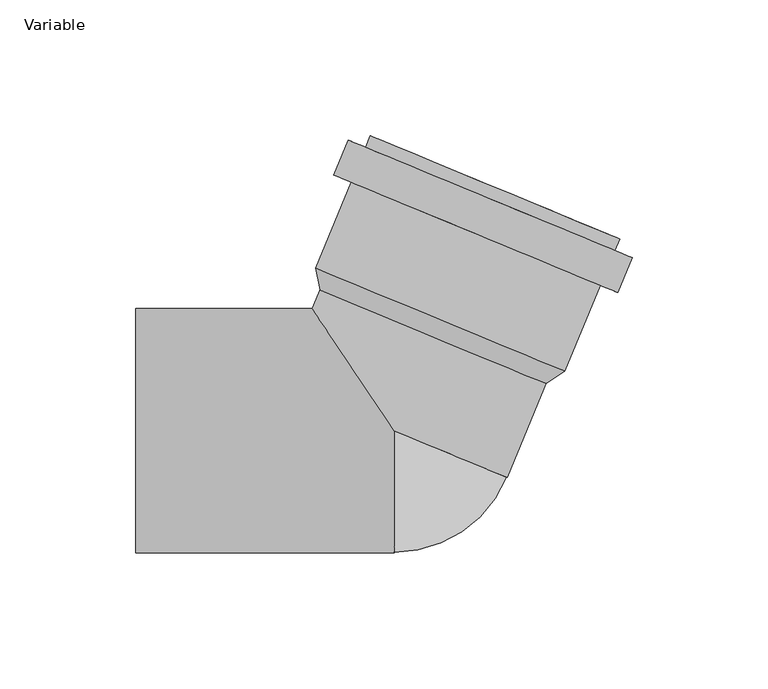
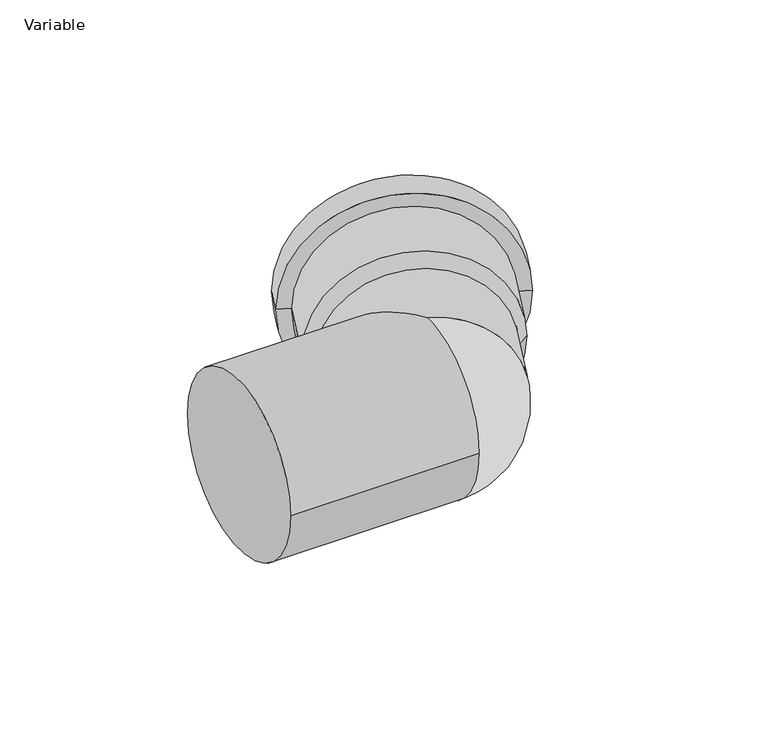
"""IFC4 building model written with IfcOpenShell, lengths in millimetres: pipe fitting geometry, AliaxisFR_Friaphon_ElbowMF_FR : Variable."""

import ifcopenshell
import ifcopenshell.guid

model = None  # the IFC model being written
_history = None  # IfcOwnerHistory: only IFC2X3 demands one
_inside = {}  # id of a spatial element -> (the spatial element, [elements in it])
_under = {}  # id of a project, library or spatial element -> (it, [spatial elements below it])
_declared = {}  # id of a project -> (the project, [libraries it declares])
_typed = {}  # id of a type object -> (the type object, [elements of that type])
_made_of = {}  # id of a material, layer set ... -> (it, [elements and type objects made of it])


def new_model(schema):
    """Start an empty IFC model of exactly this schema.

    Asked for "IFC4X3", IfcOpenShell would pick the latest addendum, in which some entities
    have other attributes; the version numbers below select the first issue.
    IFC2X3 requires an IfcOwnerHistory on every rooted entity: one is made here for all.
    """
    global model, _history
    if schema == "IFC4X3":
        model = ifcopenshell.file(schema_version=(4, 3, 0, 0))
    else:
        model = ifcopenshell.file(schema=schema)
    _inside.clear()
    _under.clear()
    _declared.clear()
    _typed.clear()
    _made_of.clear()
    _history = None
    if model.schema == "IFC2X3":
        org = make("IfcOrganization", Name="unknown")
        user = make(
            "IfcPersonAndOrganization",
            ThePerson=make("IfcPerson", FamilyName="unknown"),
            TheOrganization=org,
        )
        app = make(
            "IfcApplication",
            ApplicationDeveloper=org,
            Version="unknown",
            ApplicationFullName="unknown",
            ApplicationIdentifier="unknown",
        )
        _history = make(
            "IfcOwnerHistory",
            OwningUser=user,
            OwningApplication=app,
            ChangeAction="ADDED",
            CreationDate=0,
        )
    return model


def make(cls, **values):
    """One entity of the class cls with the attributes given. An attribute that is None is left unset."""
    return model.create_entity(
        cls, **{name: value for name, value in values.items() if value is not None}
    )


def rooted(cls, **values):
    """An entity with a GlobalId (a new one), such as an element, a storey or a relation."""
    return make(cls, GlobalId=ifcopenshell.guid.new(), OwnerHistory=_history, **values)


def si_unit(unit_type, name, prefix=None):
    """IfcSIUnit, for example si_unit("LENGTHUNIT", "METRE", prefix="MILLI")."""
    return make("IfcSIUnit", UnitType=unit_type, Prefix=prefix, Name=name)


def assignment(units):
    """IfcUnitAssignment: the units of a project."""
    return None if units is None else make("IfcUnitAssignment", Units=units)


def point(xyz):
    """IfcCartesianPoint."""
    return None if xyz is None else make("IfcCartesianPoint", Coordinates=xyz)


def direction(xyz):
    """IfcDirection."""
    return None if xyz is None else make("IfcDirection", DirectionRatios=xyz)


def frame(location, z_axis=None, x_axis=None):
    """IfcAxis2Placement3D, a coordinate frame: its origin and axes. An axis left out is left unset."""
    return make(
        "IfcAxis2Placement3D",
        Location=point(location),
        Axis=direction(z_axis),
        RefDirection=direction(x_axis),
    )


def origin():
    """The frame at (0, 0, 0) with its axes left unset."""
    return frame((0.0, 0.0, 0.0))


def place(relative_to, where):
    """IfcLocalPlacement: puts the frame where relative to a parent placement (None: the world)."""
    return make(
        "IfcLocalPlacement", PlacementRelTo=relative_to, RelativePlacement=where
    )


def context(
    kind, dimensions, precision=None, world=None, true_north=None, identifier=None
):
    """IfcGeometricRepresentationContext, for example the 3D "Model" context."""
    return make(
        "IfcGeometricRepresentationContext",
        ContextIdentifier=identifier,
        ContextType=kind,
        CoordinateSpaceDimension=dimensions,
        Precision=precision,
        WorldCoordinateSystem=world,
        TrueNorth=true_north,
    )


def project(units=None, contexts=None):
    """IfcProject with its units and contexts."""
    return rooted(
        "IfcProject",
        Name="project",
        RepresentationContexts=contexts,
        UnitsInContext=assignment(units),
    )


def spatial(cls, under=None, at=None, **own):
    """A site, building, storey or space (cls), placed at a placement, below another one or the project."""
    s = rooted(cls, ObjectPlacement=at, **own)
    if under is not None:
        _under.setdefault(under.id(), (under, []))[1].append(s)
    return s


def polyline(points):
    """IfcPolyline through the points."""
    return make("IfcPolyline", Points=[point(p) for p in points])


def circle_curve(where, radius):
    """IfcCircle in the frame where."""
    return make("IfcCircle", Position=where, Radius=radius)


def ellipse_curve(where, semi_axis1, semi_axis2):
    """IfcEllipse in the frame where."""
    return make(
        "IfcEllipse", Position=where, SemiAxis1=semi_axis1, SemiAxis2=semi_axis2
    )


def trimmed(basis, trim1, trim2, sense, master):
    """IfcTrimmedCurve: the piece of a basis curve between two trims."""
    return make(
        "IfcTrimmedCurve",
        BasisCurve=basis,
        Trim1=trim1,
        Trim2=trim2,
        SenseAgreement=sense,
        MasterRepresentation=master,
    )


def shape(context_of_items, identifier, shape_type, items):
    """IfcShapeRepresentation: the items that make up one representation, for example the "Body"."""
    return make(
        "IfcShapeRepresentation",
        ContextOfItems=context_of_items,
        RepresentationIdentifier=identifier,
        RepresentationType=shape_type,
        Items=items,
    )


def source(mapping_origin, context_of_items, identifier, shape_type, items):
    """IfcRepresentationMap: a shape defined once, which mapped items show again and again."""
    return make(
        "IfcRepresentationMap",
        MappingOrigin=mapping_origin,
        MappedRepresentation=shape(context_of_items, identifier, shape_type, items),
    )


def transform(
    local_origin,
    x_axis=None,
    y_axis=None,
    z_axis=None,
    scale=None,
    scale2=None,
    scale3=None,
    uniform=True,
):
    """IfcCartesianTransformationOperator3D, or its non-uniform kind. x_axis, y_axis, z_axis: its Axis1, 2, 3."""
    if uniform:
        return make(
            "IfcCartesianTransformationOperator3D",
            Axis1=direction(x_axis),
            Axis2=direction(y_axis),
            LocalOrigin=point(local_origin),
            Scale=scale,
            Axis3=direction(z_axis),
        )
    return make(
        "IfcCartesianTransformationOperator3DnonUniform",
        Axis1=direction(x_axis),
        Axis2=direction(y_axis),
        LocalOrigin=point(local_origin),
        Scale=scale,
        Axis3=direction(z_axis),
        Scale2=scale2,
        Scale3=scale3,
    )


def mapped(mapping_source, mapping_target):
    """IfcMappedItem: shows the shape of a source again, moved by a transform."""
    return make(
        "IfcMappedItem", MappingSource=mapping_source, MappingTarget=mapping_target
    )


def made_of(thing, what):
    """Note that an element or type object is made of a material, layer set ...; save() writes the relation."""
    if what is not None:
        _made_of.setdefault(what.id(), (what, []))[1].append(thing)
    return thing


def element(
    cls,
    number,
    at=None,
    inside=None,
    cuts=None,
    type_object=None,
    material=None,
    context=None,
    identifier="Body",
    shape_type=None,
    held_by="IfcProductDefinitionShape",
    body=None,
    shapes=None,
    **own,
):
    """One element of the class cls, such as IfcWall. Its Tag is "e" and its number.

    at: its placement. inside: the storey or other place that contains it. cuts: it is an
    opening in that element (IfcRelVoidsElement). A single representation is given by context,
    identifier, shape_type and body (its items); several are given by shapes. held_by: the class
    of the entity that holds the representations. save() writes the other relations.
    """
    e = rooted(cls, Tag="e%d" % number, ObjectPlacement=at, **own)
    if body is not None:
        shapes = [shape(context, identifier, shape_type, body)]
    if shapes is not None:
        e.Representation = make(held_by, Representations=shapes)
    if inside is not None:
        _inside.setdefault(inside.id(), (inside, []))[1].append(e)
    if cuts is not None:
        rooted(
            "IfcRelVoidsElement", RelatingBuildingElement=cuts, RelatedOpeningElement=e
        )
    if type_object is not None:
        _typed.setdefault(type_object.id(), (type_object, []))[1].append(e)
    return made_of(e, material)


def aggregate(whole, parts):
    """IfcRelAggregates: a whole, such as a stair, and the parts it consists of."""
    return rooted("IfcRelAggregates", RelatingObject=whole, RelatedObjects=parts)


def save(model, path):
    """Write the relations noted so far, then the file.

    IfcRelAggregates (storeys below a building ...), IfcRelContainedInSpatialStructure (elements
    in a storey), IfcRelDefinesByType, IfcRelAssociatesMaterial and IfcRelDeclares: one each for
    every whole, place, type object, material and project.
    """
    for whole, parts in _under.values():
        aggregate(whole, parts)
    for where, things in _inside.values():
        rooted(
            "IfcRelContainedInSpatialStructure",
            RelatedElements=things,
            RelatingStructure=where,
        )
    for kind, things in _typed.values():
        rooted("IfcRelDefinesByType", RelatedObjects=things, RelatingType=kind)
    for what, things in _made_of.values():
        rooted("IfcRelAssociatesMaterial", RelatedObjects=things, RelatingMaterial=what)
    for by, libraries in _declared.values():
        rooted("IfcRelDeclares", RelatingContext=by, RelatedDefinitions=libraries)
    model.write(path)


def plane_surface(at):
    """IfcPlane: the flat surface through the origin of the frame at, square to its z axis."""
    return make("IfcPlane", Position=at)


def cylinder_surface(at, radius):
    """IfcCylindricalSurface: all points at the distance radius from the z axis of the frame at."""
    return make("IfcCylindricalSurface", Position=at, Radius=radius)


def revolved_surface(curve, axis_point, axis_direction):
    """IfcSurfaceOfRevolution: the curve turned about the line through axis_point along axis_direction."""
    return make(
        "IfcSurfaceOfRevolution",
        SweptCurve=make("IfcArbitraryOpenProfileDef", ProfileType="CURVE", Curve=curve),
        AxisPosition=make("IfcAxis1Placement", Location=point(axis_point), Axis=direction(axis_direction)),
    )


def advanced_brep(points, edges, surfaces, faces):
    """IfcAdvancedBrep: a solid bounded by faces that lie on surfaces and meet in shared edges.

    An edge is (start, end): straight between two places in points (the first is 0);
    or (start, end, curve); or (start, end, curve, False) where it runs against its curve.
    A face is (place in surfaces, loops), or (place, loops, False) where it looks against
    its surface's normal. A loop lists edges by number (the first is 1), with a minus sign
    where the edge is run from its end to its start. The first loop is the outer one.
    """
    corners = [point(p) for p in points]
    vertices = [make("IfcVertexPoint", VertexGeometry=c) for c in corners]
    made = []
    for start, end, *more in edges:
        made.append(
            make(
                "IfcEdgeCurve",
                EdgeStart=vertices[start],
                EdgeEnd=vertices[end],
                EdgeGeometry=more[0] if more else make("IfcPolyline", Points=[corners[start], corners[end]]),
                SameSense=more[1] if len(more) > 1 else True,
            )
        )
    hull = []
    for where, loops, *sense in faces:
        bounds = []
        for j, loop in enumerate(loops):
            ring = [make("IfcOrientedEdge", EdgeElement=made[abs(k) - 1], Orientation=k > 0) for k in loop]
            bounds.append(
                make(
                    "IfcFaceOuterBound" if j == 0 else "IfcFaceBound",
                    Bound=make("IfcEdgeLoop", EdgeList=ring),
                    Orientation=True,
                )
            )
        hull.append(make("IfcAdvancedFace", Bounds=bounds, FaceSurface=surfaces[where], SameSense=sense[0] if sense else True))
    return make("IfcAdvancedBrep", Outer=make("IfcClosedShell", CfsFaces=hull))


def variable_518ba2a0(model_context):
    return source(origin(), model_context, "Body", "AdvancedBrep", [
        advanced_brep(
        [(82.9447178, 70.6352164, 0.0), (-8.7041319, 108.5974129, 0.0), (-4.454286, 106.8370691, 0.0), (78.6948719, 72.3955602, 0.0), (82.239843, 50.9029294, 0.0), (-22.1585441, 94.1461572, 0.0), (-16.8392444, 106.9880827, 0.0), (87.5591427, 63.7448549, 0.0), (75.8650743, 53.5434451, 0.0), (-15.7837754, 91.5056415, 0.0), (62.7773009, 21.946765, 0.0), (-28.8715488, 59.9089615, 0.0), (-27.2622186, 51.773849, 0.0), (55.8869393, 17.3323401, 0.0), (81.184374, 66.3853706, 0.0), (-10.4644757, 104.347567, 0.0)],
        [
            (0, 1, circle_curve(frame((37.1202929, 89.6163147, 0.0), z_axis=(0.38268343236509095, 0.9238795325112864, 0.0), x_axis=(-0.9238795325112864, 0.38268343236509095, 0.0)), 49.6)),
            (1, 2),
            (2, 3, circle_curve(frame((37.1202929, 89.6163147, 0.0), z_axis=(-0.38268343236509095, -0.9238795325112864, 0.0), x_axis=(-0.9238795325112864, 0.38268343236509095, 0.0)), 45.0)),
            (3, 0),
            (1, 0, circle_curve(frame((37.1202929, 89.6163147, 0.0), z_axis=(0.38268343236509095, 0.9238795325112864, 0.0), x_axis=(-0.9238795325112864, 0.38268343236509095, 0.0)), 49.6)),
            (3, 2, circle_curve(frame((37.1202929, 89.6163147, 0.0), z_axis=(-0.38268343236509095, -0.9238795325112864, 0.0), x_axis=(-0.9238795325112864, 0.38268343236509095, 0.0)), 45.0)),
            (4, 5, circle_curve(frame((30.0406494, 72.5245433, 0.0), z_axis=(0.38268343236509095, 0.9238795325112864, 0.0), x_axis=(-0.9238795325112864, 0.38268343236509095, 0.0)), 56.5)),
            (5, 6),
            (6, 7, circle_curve(frame((35.3599492, 85.3664688, 0.0), z_axis=(-0.38268343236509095, -0.9238795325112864, 0.0), x_axis=(-0.9238795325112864, 0.38268343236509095, 0.0)), 56.5)),
            (7, 4),
            (5, 4, circle_curve(frame((30.0406494, 72.5245433, 0.0), z_axis=(0.38268343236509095, 0.9238795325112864, 0.0), x_axis=(-0.9238795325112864, 0.38268343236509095, 0.0)), 56.5)),
            (7, 6, circle_curve(frame((35.3599492, 85.3664688, 0.0), z_axis=(-0.38268343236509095, -0.9238795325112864, 0.0), x_axis=(-0.9238795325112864, 0.38268343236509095, 0.0)), 56.5)),
            (8, 9, circle_curve(frame((30.0406494, 72.5245433, 0.0), z_axis=(0.38268343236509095, 0.9238795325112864, 0.0), x_axis=(-0.9238795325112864, 0.38268343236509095, 0.0)), 49.6)),
            (9, 5),
            (4, 8),
            (9, 8, circle_curve(frame((30.0406494, 72.5245433, 0.0), z_axis=(0.38268343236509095, 0.9238795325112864, 0.0), x_axis=(-0.9238795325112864, 0.38268343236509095, 0.0)), 49.6)),
            (10, 11, circle_curve(frame((16.9528761, 40.9278633, 0.0), z_axis=(0.38268343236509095, 0.9238795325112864, 0.0), x_axis=(-0.9238795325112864, 0.38268343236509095, 0.0)), 49.6)),
            (11, 9),
            (8, 10),
            (11, 10, circle_curve(frame((16.9528761, 40.9278633, 0.0), z_axis=(0.38268343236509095, 0.9238795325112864, 0.0), x_axis=(-0.9238795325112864, 0.38268343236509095, 0.0)), 49.6)),
            (2, 12),
            (12, 13, circle_curve(frame((14.3123604, 34.5530945, 0.0), z_axis=(-0.38268343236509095, -0.9238795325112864, 0.0), x_axis=(-0.9238795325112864, 0.38268343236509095, 0.0)), 45.0)),
            (13, 3),
            (13, 12, circle_curve(frame((14.3123604, 34.5530945, 0.0), z_axis=(-0.38268343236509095, -0.9238795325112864, 0.0), x_axis=(-0.9238795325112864, 0.38268343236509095, 0.0)), 45.0)),
            (12, 11),
            (10, 13),
            (14, 15, circle_curve(frame((35.3599492, 85.3664688, 0.0), z_axis=(0.38268343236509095, 0.9238795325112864, 0.0), x_axis=(-0.9238795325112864, 0.38268343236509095, 0.0)), 49.6)),
            (15, 1),
            (0, 14),
            (15, 14, circle_curve(frame((35.3599492, 85.3664688, 0.0), z_axis=(0.38268343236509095, 0.9238795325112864, 0.0), x_axis=(-0.9238795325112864, 0.38268343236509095, 0.0)), 49.6)),
            (6, 15),
            (14, 7),
        ],
        [
            plane_surface(frame((37.1202929, 89.6163147, 0.0), z_axis=(0.38268343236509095, 0.9238795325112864, 0.0), x_axis=(-0.9238795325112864, 0.38268343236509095, 0.0))),
            cylinder_surface(frame((14.3123604, 34.5530945, 0.0), z_axis=(-0.38268343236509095, -0.9238795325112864, 0.0), x_axis=(-0.9238795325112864, 0.38268343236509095, 0.0)), 56.5),
            plane_surface(frame((30.0406494, 72.5245433, 0.0), z_axis=(-0.38268343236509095, -0.9238795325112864, 0.0), x_axis=(-0.9238795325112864, 0.38268343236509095, 0.0))),
            cylinder_surface(frame((14.3123604, 34.5530945, 0.0), z_axis=(-0.38268343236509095, -0.9238795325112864, 0.0), x_axis=(-0.9238795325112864, 0.38268343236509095, 0.0)), 49.6),
            revolved_surface(polyline([(-27.262218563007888, 51.77384895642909, 0.0), (-4.454285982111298, 106.83706912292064, 0.0)]), (14.3123604, 34.5530945, 0.0), (-0.38268343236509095, -0.9238795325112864, 0.0)),
            revolved_surface(polyline([(-28.8715488, 59.9089615, 0.0), (-27.2622186, 51.773849, 0.0)]), (14.3123604, 34.5530945, 0.0), (-0.38268343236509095, -0.9238795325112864, 0.0)),
            plane_surface(frame((35.3599492, 85.3664688, 0.0), z_axis=(0.38268343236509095, 0.9238795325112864, 0.0), x_axis=(-0.9238795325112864, 0.38268343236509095, 0.0))),
        ],
        [
            (0, [[1, 2, 3, 4]]),
            (0, [[5, -4, 6, -2]]),
            (1, [[7, 8, 9, 10]]),
            (1, [[11, -10, 12, -8]]),
            (2, [[13, 14, -7, 15]]),
            (2, [[16, -15, -11, -14]]),
            (3, [[17, 18, -13, 19]]),
            (3, [[20, -19, -16, -18]]),
            (4, [[-3, 21, 22, 23]]),
            (4, [[-6, -23, 24, -21]]),
            (5, [[-22, 25, -17, 26]]),
            (5, [[-24, -26, -20, -25]]),
            (3, [[27, 28, -1, 29]]),
            (3, [[30, -29, -5, -28]]),
            (6, [[-9, 31, -27, 32]]),
            (6, [[-12, -32, -30, -31]]),
        ],
    ),
        advanced_brep(
        [(-25.5018748, 56.0236948, 0.0), (16.0727042, 38.8029404, 45.0), (57.6472831, 21.5821859, 0.0), (16.0727042, 38.8029404, -45.0), (41.574579, -17.2207545, 0.0), (-30.0680387, 45.0, 0.0), (0.0, 0.0, 45.0), (0.0, 0.0, -45.0), (-95.0, -45.0, 0.0), (-95.0, 45.0, 0.0), (0.0, -45.0, 0.0)],
        [
            (0, 1, circle_curve(frame((16.0727042, 38.8029404, 0.0), z_axis=(0.382683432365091, 0.9238795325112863, 0.0), x_axis=(-0.9238795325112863, 0.382683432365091, 0.0)), 45.0)),
            (1, 2, circle_curve(frame((16.0727042, 38.8029404, 0.0), z_axis=(0.382683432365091, 0.9238795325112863, 0.0), x_axis=(-0.9238795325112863, 0.382683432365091, 0.0)), 45.0)),
            (2, 3, circle_curve(frame((16.0727042, 38.8029404, 0.0), z_axis=(0.382683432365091, 0.9238795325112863, 0.0), x_axis=(-0.9238795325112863, 0.382683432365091, 0.0)), 45.0)),
            (3, 0, circle_curve(frame((16.0727042, 38.8029404, 0.0), z_axis=(0.382683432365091, 0.9238795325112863, 0.0), x_axis=(-0.9238795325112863, 0.382683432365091, 0.0)), 45.0)),
            (4, 2),
            (0, 5),
            (5, 6, ellipse_curve(frame((0.0, 0.0, 0.0), z_axis=(0.8314696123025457, 0.5555702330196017, 0.0), x_axis=(0.5555702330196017, -0.8314696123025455, 0.0)), 54.1210398, 45.0)),
            (6, 4, circle_curve(frame((0.0, 0.0, 0.0), z_axis=(0.382683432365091, 0.9238795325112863, 0.0), x_axis=(-0.9238795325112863, 0.382683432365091, 0.0)), 45.0)),
            (4, 7, circle_curve(frame((0.0, 0.0, 0.0), z_axis=(0.382683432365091, 0.9238795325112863, 0.0), x_axis=(-0.9238795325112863, 0.382683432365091, 0.0)), 45.0)),
            (7, 5, ellipse_curve(frame((0.0, 0.0, 0.0), z_axis=(0.8314696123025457, 0.5555702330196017, 0.0), x_axis=(0.5555702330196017, -0.8314696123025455, 0.0)), 54.1210398, 45.0)),
            (8, 9, circle_curve(frame((-95.0, 0.0, 0.0), z_axis=(-1.0, 0.0, 0.0), x_axis=(0.0, 1.0, 0.0)), 45.0)),
            (9, 8, circle_curve(frame((-95.0, 0.0, 0.0), z_axis=(-1.0, 0.0, 0.0), x_axis=(0.0, 1.0, 0.0)), 45.0)),
            (8, 10),
            (10, 6, circle_curve(frame((0.0, 0.0, 0.0), z_axis=(-1.0, 0.0, 0.0), x_axis=(0.0, 1.0, 0.0)), 45.0)),
            (5, 9),
            (7, 10, circle_curve(frame((0.0, 0.0, 0.0), z_axis=(-1.0, 0.0, 0.0), x_axis=(0.0, 1.0, 0.0)), 45.0)),
        ],
        [
            plane_surface(frame((16.0727042, 38.8029404, 0.0), z_axis=(0.38268343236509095, 0.9238795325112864, 0.0), x_axis=(0.0, 0.0, 1.0))),
            cylinder_surface(frame((0.0, 0.0, 0.0), z_axis=(-0.382683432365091, -0.9238795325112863, 0.0), x_axis=(-0.9238795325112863, 0.382683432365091, 0.0)), 45.0),
            plane_surface(frame((-95.0, 0.0, 0.0), z_axis=(-1.0, 0.0, 0.0), x_axis=(0.0, 0.0, 1.0))),
            cylinder_surface(frame((-95.0, 0.0, 0.0), z_axis=(-1.0, 0.0, 0.0), x_axis=(0.0, 1.0, 0.0)), 45.0),
            revolved_surface(trimmed(ellipse_curve(frame((0.0, 0.0, 0.0), z_axis=(0.3826834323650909, 0.9238795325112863, 0.0), x_axis=(-0.9238795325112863, 0.3826834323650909, 0.0)), 45.0, 45.0), [point((0.0, 0.0, 45.0))], [point((0.0, 0.0, -45.0))], True, "CARTESIAN"), (0.0, 0.0, 45.0), (0.0, 0.0, -1.0)),
        ],
        [
            (0, [[1, 2, 3, 4]]),
            (1, [[5, -2, -1, 6, 7, 8]]),
            (1, [[-5, 9, 10, -6, -4, -3]]),
            (2, [[11, 12]]),
            (3, [[-11, 13, 14, -7, 15]]),
            (3, [[-12, -15, -10, 16, -13]]),
            (4, [[-14, -16, -9, -8]]),
        ],
    ),
    ])


if __name__ == "__main__":
    model = new_model("IFC4")
    model_context = context("Model", 3, world=origin())
    ifc_project = project(units=[si_unit("LENGTHUNIT", "METRE", prefix="MILLI")], contexts=[model_context])
    site = spatial("IfcSite", under=ifc_project)
    building = spatial("IfcBuilding", under=site)
    placement = place(None, origin())
    variable_shape = variable_518ba2a0(model_context)
    element("IfcPipeFitting", 1, ObjectType="AliaxisFR_Friaphon_ElbowMF_FR : Variable", at=placement, inside=building, context=model_context, shape_type="MappedRepresentation", body=[
        mapped(variable_shape, transform((0.0, 0.0, 0.0), x_axis=(1.0, 0.0, 0.0), y_axis=(0.0, 1.0, 0.0), z_axis=(0.0, 0.0, 1.0))),
    ])
    save(model, "model.ifc")
